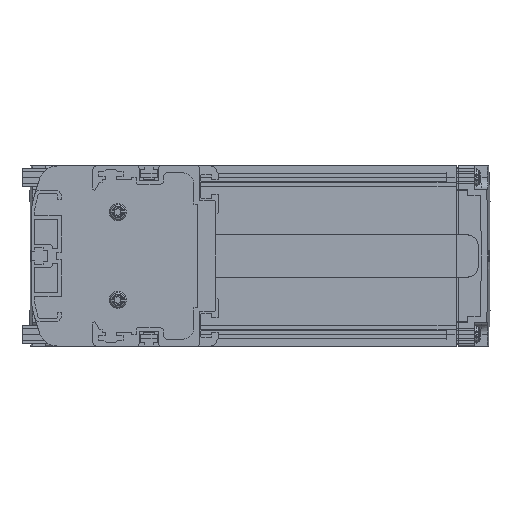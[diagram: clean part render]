
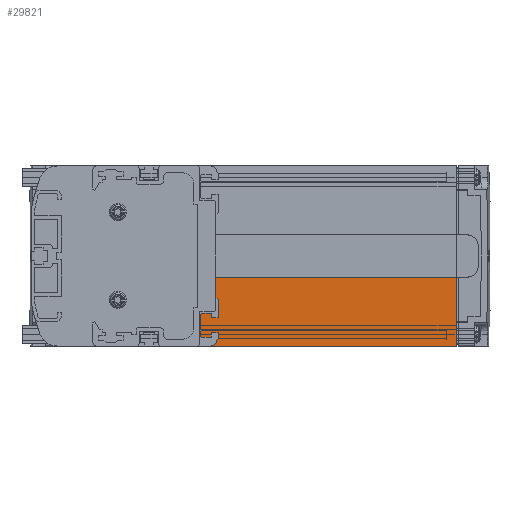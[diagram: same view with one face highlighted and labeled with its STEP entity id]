
A CAD part, left-side view. The second image highlights one B-rep face of the part: STEP entity #29821.
In plain terms, the highlighted planar face has unit normal (-1, 0, 0).
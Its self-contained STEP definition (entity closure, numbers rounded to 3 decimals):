
#3616=DIRECTION('',(0.,0.,1.));
#3617=VECTOR('',#3616,13.9);
#3618=CARTESIAN_POINT('',(3.,1.,-23.));
#3619=LINE('',#3618,#3617);
#4180=CARTESIAN_POINT('',(3.,2.,-23.));
#4181=DIRECTION('',(-1.,0.,0.));
#4182=DIRECTION('',(0.,0.,-1.));
#4183=AXIS2_PLACEMENT_3D('',#4180,#4181,#4182);
#4193=DIRECTION('',(0.,0.,1.));
#4194=VECTOR('',#4193,29.9);
#4195=CARTESIAN_POINT('',(3.,-103.,-39.));
#4196=LINE('',#4195,#4194);
#4213=DIRECTION('',(0.,1.,0.));
#4214=VECTOR('',#4213,104.);
#4215=CARTESIAN_POINT('',(3.,-103.,-9.1));
#4216=LINE('',#4215,#4214);
#7505=DIRECTION('',(0.,1.,0.));
#7506=VECTOR('',#7505,112.);
#7507=CARTESIAN_POINT('',(3.,-103.,-39.));
#7508=LINE('',#7507,#7506);
#8706=CARTESIAN_POINT('',(3.,9.,-38.));
#8707=DIRECTION('',(-1.,0.,0.));
#8708=DIRECTION('',(0.,0.,-1.));
#8709=AXIS2_PLACEMENT_3D('',#8706,#8707,#8708);
#8719=DIRECTION('',(0.,0.,-1.));
#8720=VECTOR('',#8719,14.);
#8721=CARTESIAN_POINT('',(3.,8.,-24.));
#8722=LINE('',#8721,#8720);
#8723=DIRECTION('',(0.,1.,0.));
#8724=VECTOR('',#8723,6.);
#8725=CARTESIAN_POINT('',(3.,2.,-24.));
#8726=LINE('',#8725,#8724);
#19519=CARTESIAN_POINT('',(3.,-103.,-39.));
#19520=VERTEX_POINT('',#19519);
#19521=CARTESIAN_POINT('',(3.,-103.,-9.1));
#19522=VERTEX_POINT('',#19521);
#23853=CARTESIAN_POINT('',(3.,1.,-23.));
#23854=CARTESIAN_POINT('',(3.,1.,-9.1));
#23855=VERTEX_POINT('',#23853);
#23856=VERTEX_POINT('',#23854);
#23901=CARTESIAN_POINT('',(3.,9.,-39.));
#23902=CARTESIAN_POINT('',(3.,8.,-38.));
#23903=VERTEX_POINT('',#23901);
#23904=VERTEX_POINT('',#23902);
#23905=CARTESIAN_POINT('',(3.,8.,-24.));
#23906=VERTEX_POINT('',#23905);
#23907=CARTESIAN_POINT('',(3.,2.,-24.));
#23908=VERTEX_POINT('',#23907);
#29800=CARTESIAN_POINT('',(3.,-18.,-24.05));
#29801=DIRECTION('',(1.,0.,0.));
#29802=DIRECTION('',(0.,0.,-1.));
#29803=AXIS2_PLACEMENT_3D('',#29800,#29801,#29802);
#29804=PLANE('',#29803);
#29805=ORIENTED_EDGE('',*,*,#27556,.T.);
#29807=ORIENTED_EDGE('',*,*,#29806,.F.);
#29809=ORIENTED_EDGE('',*,*,#29808,.F.);
#29811=ORIENTED_EDGE('',*,*,#29810,.T.);
#29813=ORIENTED_EDGE('',*,*,#29812,.T.);
#29815=ORIENTED_EDGE('',*,*,#29814,.F.);
#29817=ORIENTED_EDGE('',*,*,#29816,.F.);
#29818=ORIENTED_EDGE('',*,*,#29791,.T.);
#29819=EDGE_LOOP('',(#29805,#29807,#29809,#29811,#29813,#29815,#29817,#29818));
#29820=FACE_OUTER_BOUND('',#29819,.F.);
#29821=ADVANCED_FACE('',(#29820),#29804,.F.);
#4184=CIRCLE('',#4183,1.);
#8710=CIRCLE('',#8709,1.);
#27556=EDGE_CURVE('',#23855,#23856,#3619,.T.);
#29791=EDGE_CURVE('',#23908,#23855,#4184,.T.);
#29806=EDGE_CURVE('',#19522,#23856,#4216,.T.);
#29808=EDGE_CURVE('',#19520,#19522,#4196,.T.);
#29810=EDGE_CURVE('',#19520,#23903,#7508,.T.);
#29812=EDGE_CURVE('',#23903,#23904,#8710,.T.);
#29814=EDGE_CURVE('',#23906,#23904,#8722,.T.);
#29816=EDGE_CURVE('',#23908,#23906,#8726,.T.);
